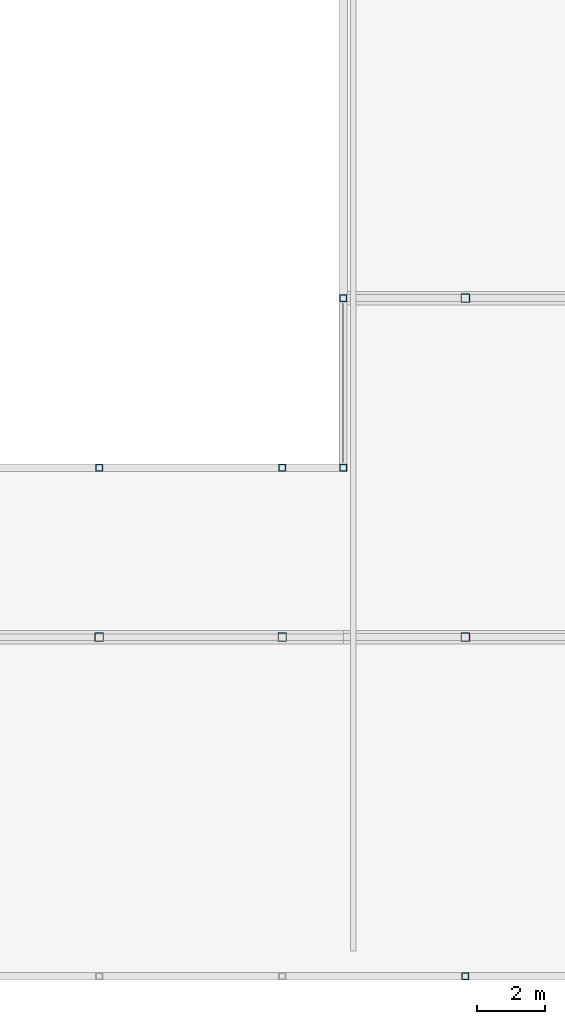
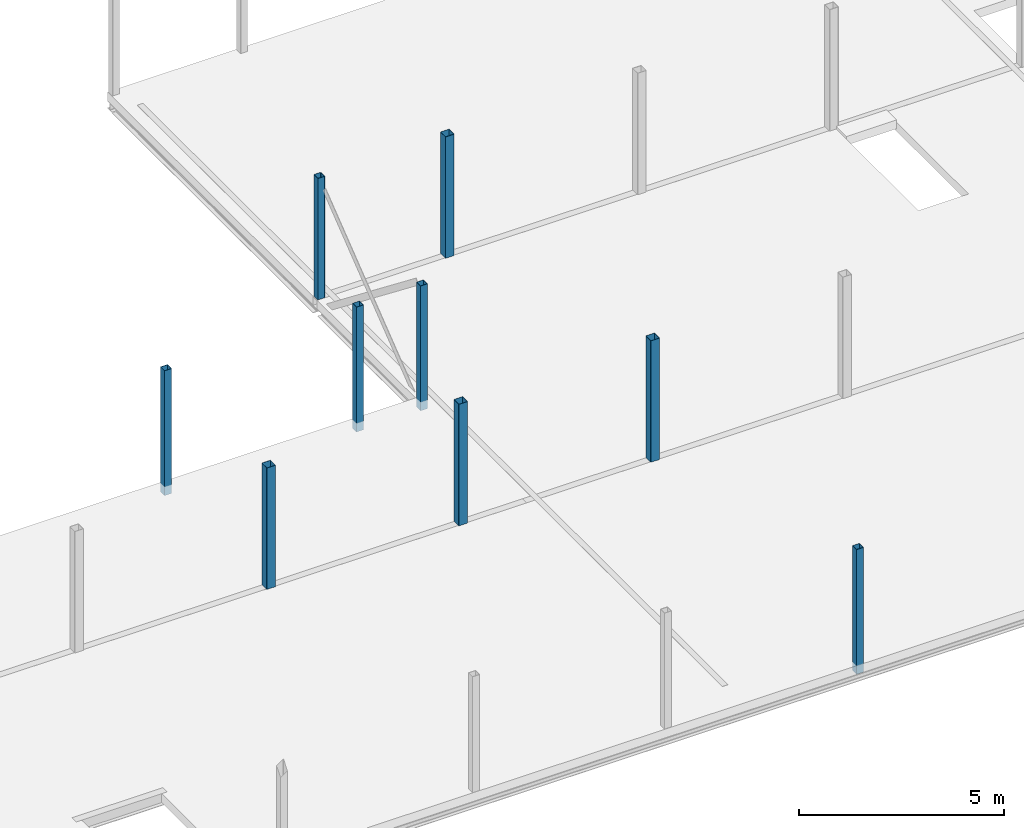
# One storey, part 2 of 7: 9 columns.
"""IFC2X3 building model written with IfcOpenShell, lengths in millimetres."""

from ifc_helpers import new_model, entity, si_unit, converted_unit, derived_unit, direction, frame, frame_2d, origin, place, context, subcontext, project, spatial, polyline, circle_curve, parameter, trimmed, segment, composite_curve, outline, extrude, source, transform, mapped, material, type_object, type_shapes, element, save


model = new_model("IFC2X3")

# Units and contexts
model_context = context("Model", 3, precision=0.01, world=origin(), true_north=direction((6.123031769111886e-17, 1.0)))
body_context = subcontext(model_context, "Body", "Model", "MODEL_VIEW")
ifc_project = project(units=[si_unit("LENGTHUNIT", "METRE", prefix="MILLI"), si_unit("AREAUNIT", "SQUARE_METRE"), si_unit("VOLUMEUNIT", "CUBIC_METRE"), converted_unit("PLANEANGLEUNIT", "DEGREE", entity("IfcPlaneAngleMeasure", 0.017453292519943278), si_unit("PLANEANGLEUNIT", "RADIAN"), dimensions=[0, 0, 0, 0, 0, 0, 0]), si_unit("MASSUNIT", "GRAM", prefix="KILO"), derived_unit("MASSDENSITYUNIT", [(si_unit("MASSUNIT", "GRAM", prefix="KILO"), 1), (si_unit("LENGTHUNIT", "METRE"), -3)]), derived_unit("IONCONCENTRATIONUNIT", [(si_unit("MASSUNIT", "GRAM", prefix="KILO"), 1), (si_unit("LENGTHUNIT", "METRE"), -3)]), derived_unit("MOMENTOFINERTIAUNIT", [(si_unit("LENGTHUNIT", "METRE"), 4)]), si_unit("TIMEUNIT", "SECOND"), si_unit("FREQUENCYUNIT", "HERTZ"), si_unit("THERMODYNAMICTEMPERATUREUNIT", "DEGREE_CELSIUS"), derived_unit("THERMALTRANSMITTANCEUNIT", [(si_unit("MASSUNIT", "GRAM", prefix="KILO"), 1), (si_unit("THERMODYNAMICTEMPERATUREUNIT", "KELVIN"), -1), (si_unit("TIMEUNIT", "SECOND"), -3)]), derived_unit("THERMALCONDUCTANCEUNIT", [(si_unit("MASSUNIT", "GRAM", prefix="KILO"), 1), (si_unit("THERMODYNAMICTEMPERATUREUNIT", "KELVIN"), -1), (si_unit("TIMEUNIT", "SECOND"), -3), (si_unit("LENGTHUNIT", "METRE"), 1)]), derived_unit("VOLUMETRICFLOWRATEUNIT", [(si_unit("LENGTHUNIT", "METRE", prefix="DECI"), 3), (si_unit("TIMEUNIT", "SECOND"), -1)]), derived_unit("MASSFLOWRATEUNIT", [(si_unit("MASSUNIT", "GRAM", prefix="KILO"), 1), (si_unit("TIMEUNIT", "SECOND"), -1)]), derived_unit("ROTATIONALFREQUENCYUNIT", [(si_unit("TIMEUNIT", "SECOND"), -1)]), si_unit("ELECTRICCURRENTUNIT", "AMPERE"), si_unit("ELECTRICVOLTAGEUNIT", "VOLT"), si_unit("POWERUNIT", "WATT"), si_unit("FORCEUNIT", "NEWTON", prefix="KILO"), si_unit("ILLUMINANCEUNIT", "LUX"), si_unit("LUMINOUSFLUXUNIT", "LUMEN"), si_unit("LUMINOUSINTENSITYUNIT", "CANDELA"), si_unit("ENERGYUNIT", "JOULE"), derived_unit("USERDEFINED", [(si_unit("MASSUNIT", "GRAM", prefix="KILO"), -1), (si_unit("LENGTHUNIT", "METRE"), -2), (si_unit("TIMEUNIT", "SECOND"), 3), (si_unit("LUMINOUSFLUXUNIT", "LUMEN"), 1)]), derived_unit("USERDEFINED", [(si_unit("MASSUNIT", "GRAM", prefix="KILO"), 1), (si_unit("TIMEUNIT", "SECOND"), -3), (si_unit("LENGTHUNIT", "METRE"), 3), (si_unit("ELECTRICCURRENTUNIT", "AMPERE"), -2)]), derived_unit("SOUNDPOWERUNIT", [(si_unit("MASSUNIT", "GRAM", prefix="KILO"), 1), (si_unit("TIMEUNIT", "SECOND"), -3), (si_unit("LENGTHUNIT", "METRE"), 2)]), derived_unit("SOUNDPRESSUREUNIT", [(si_unit("MASSUNIT", "GRAM", prefix="KILO"), 1), (si_unit("LENGTHUNIT", "METRE"), -1), (si_unit("TIMEUNIT", "SECOND"), -2)]), derived_unit("LINEARVELOCITYUNIT", [(si_unit("LENGTHUNIT", "METRE"), 1), (si_unit("TIMEUNIT", "SECOND"), -1)]), si_unit("PRESSUREUNIT", "PASCAL"), derived_unit("USERDEFINED", [(si_unit("MASSUNIT", "GRAM", prefix="KILO"), 1), (si_unit("LENGTHUNIT", "METRE"), -2), (si_unit("TIMEUNIT", "SECOND"), -2)]), derived_unit("LINEARFORCEUNIT", [(si_unit("MASSUNIT", "GRAM", prefix="KILO"), 1), (si_unit("TIMEUNIT", "SECOND"), -2)]), derived_unit("PLANARFORCEUNIT", [(si_unit("MASSUNIT", "GRAM", prefix="KILO"), 1), (si_unit("LENGTHUNIT", "METRE"), -1), (si_unit("TIMEUNIT", "SECOND"), -2)]), derived_unit("SPECIFICHEATCAPACITYUNIT", [(si_unit("THERMODYNAMICTEMPERATUREUNIT", "KELVIN"), -1), (si_unit("LENGTHUNIT", "METRE"), 2), (si_unit("TIMEUNIT", "SECOND"), -2)]), derived_unit("HEATFLUXDENSITYUNIT", [(si_unit("MASSUNIT", "GRAM", prefix="KILO"), 1), (si_unit("TIMEUNIT", "SECOND"), -3)]), derived_unit("HEATINGVALUEUNIT", [(si_unit("LENGTHUNIT", "METRE"), 2), (si_unit("TIMEUNIT", "SECOND"), -2)]), derived_unit("VAPORPERMEABILITYUNIT", [(si_unit("LENGTHUNIT", "METRE"), -1), (si_unit("TIMEUNIT", "SECOND"), 1)]), derived_unit("DYNAMICVISCOSITYUNIT", [(si_unit("MASSUNIT", "GRAM", prefix="KILO"), 1), (si_unit("TIMEUNIT", "SECOND"), -1), (si_unit("LENGTHUNIT", "METRE"), -1)]), derived_unit("THERMALEXPANSIONCOEFFICIENTUNIT", [(si_unit("THERMODYNAMICTEMPERATUREUNIT", "KELVIN"), -1)]), derived_unit("MODULUSOFELASTICITYUNIT", [(si_unit("MASSUNIT", "GRAM", prefix="KILO"), 1), (si_unit("LENGTHUNIT", "METRE"), -1), (si_unit("TIMEUNIT", "SECOND"), -2)]), derived_unit("ISOTHERMALMOISTURECAPACITYUNIT", [(si_unit("MASSUNIT", "GRAM", prefix="KILO"), -1), (si_unit("LENGTHUNIT", "METRE"), 3)]), derived_unit("MOISTUREDIFFUSIVITYUNIT", [(si_unit("TIMEUNIT", "SECOND"), -1), (si_unit("LENGTHUNIT", "METRE"), 2)]), derived_unit("MASSPERLENGTHUNIT", [(si_unit("MASSUNIT", "GRAM", prefix="KILO"), 1), (si_unit("LENGTHUNIT", "METRE"), -1)]), derived_unit("THERMALRESISTANCEUNIT", [(si_unit("MASSUNIT", "GRAM", prefix="KILO"), -1), (si_unit("TIMEUNIT", "SECOND"), 3), (si_unit("THERMODYNAMICTEMPERATUREUNIT", "KELVIN"), 1)]), derived_unit("ACCELERATIONUNIT", [(si_unit("LENGTHUNIT", "METRE"), 1), (si_unit("TIMEUNIT", "SECOND"), -2)]), derived_unit("ANGULARVELOCITYUNIT", [(si_unit("TIMEUNIT", "SECOND"), -1), (si_unit("PLANEANGLEUNIT", "RADIAN"), 1)]), derived_unit("LINEARSTIFFNESSUNIT", [(si_unit("MASSUNIT", "GRAM", prefix="KILO"), 1), (si_unit("TIMEUNIT", "SECOND"), -2)]), derived_unit("WARPINGCONSTANTUNIT", [(si_unit("LENGTHUNIT", "METRE"), 6)]), derived_unit("LINEARMOMENTUNIT", [(si_unit("MASSUNIT", "GRAM", prefix="KILO"), 1), (si_unit("LENGTHUNIT", "METRE"), 1), (si_unit("TIMEUNIT", "SECOND"), -2)]), derived_unit("TORQUEUNIT", [(si_unit("MASSUNIT", "GRAM", prefix="KILO"), 1), (si_unit("LENGTHUNIT", "METRE"), 2), (si_unit("TIMEUNIT", "SECOND"), -2)])], contexts=[model_context])

# Site, building, storey
site_placement = place(None, origin())
site = spatial("IfcSite", under=ifc_project, at=site_placement, Name="Default", CompositionType="ELEMENT")
building_placement = place(site_placement, origin())
building = spatial("IfcBuilding", under=site, at=building_placement, CompositionType="ELEMENT")
storey_placement = place(building_placement, frame((0.0, 0.0, 4000.0)))
storey = spatial("IfcBuildingStorey", under=building, at=storey_placement, Name="01 eerste verdieping", CompositionType="ELEMENT", Elevation=4000.0000000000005)

# Columns
ifc_material = material(Name="VRI_staal")
column_type_1 = type_object("IfcColumnType", Name="28_SC_VRI_kolom_staal_koker:K200x200x8", PredefinedType="COLUMN", material=ifc_material)
shared_shape_1 = source(origin(), body_context, "Body", "SweptSolid", [
    extrude(outline(composite_curve([segment(polyline([(-88.0, -100.0), (88.0, -100.0)]), True, "CONTINUOUS"), segment(trimmed(circle_curve(frame_2d((88.0, -88.0), x_axis=(0.0, -1.0)), 12.0), [parameter(359.9999999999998)], [parameter(89.99999999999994)], True, "PARAMETER"), True, "CONTINUOUS"), segment(polyline([(100.0, -88.0), (100.0, 88.0)]), True, "CONTINUOUS"), segment(trimmed(circle_curve(frame_2d((88.0, 88.0), x_axis=(0.0, -1.0)), 12.0), [parameter(90.00000000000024)], [parameter(180.0000000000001)], True, "PARAMETER"), True, "CONTINUOUS"), segment(polyline([(88.0, 100.0), (-88.0, 100.0)]), True, "CONTINUOUS"), segment(trimmed(circle_curve(frame_2d((-88.0, 88.0), x_axis=(0.0, -1.0)), 12.0), [parameter(179.99999999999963)], [parameter(269.9999999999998)], True, "PARAMETER"), True, "CONTINUOUS"), segment(polyline([(-100.0, 88.0), (-100.0, -88.0)]), True, "CONTINUOUS"), segment(trimmed(circle_curve(frame_2d((-88.0, -88.0), x_axis=(0.0, -1.0)), 12.0), [parameter(270.00000000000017)], [parameter(1.0177774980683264e-13)], True, "PARAMETER"), True, "CONTINUOUS")], self_intersect=False), holes=[composite_curve([segment(trimmed(circle_curve(frame_2d((-88.0, 88.0), x_axis=(0.0, -1.0)), 4.0), [parameter(180.0000000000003)], [parameter(270.0000000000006)], True, "PARAMETER"), False, "CONTINUOUS"), segment(polyline([(-88.0, 92.0), (88.0, 92.0)]), True, "CONTINUOUS"), segment(trimmed(circle_curve(frame_2d((88.0, 88.0), x_axis=(0.0, -1.0)), 4.0), [parameter(90.00000000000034)], [parameter(179.99999999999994)], True, "PARAMETER"), False, "CONTINUOUS"), segment(polyline([(92.0, 88.0), (92.0, -88.0)]), True, "CONTINUOUS"), segment(trimmed(circle_curve(frame_2d((88.0, -88.0), x_axis=(0.0, -1.0)), 4.0), [parameter(5.088887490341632e-13)], [parameter(90.00000000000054)], True, "PARAMETER"), False, "CONTINUOUS"), segment(polyline([(88.0, -92.0), (-88.0, -92.0)]), True, "CONTINUOUS"), segment(trimmed(circle_curve(frame_2d((-88.0, -88.0), x_axis=(0.0, -1.0)), 4.0), [parameter(269.9999999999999)], [parameter(0.0)], True, "PARAMETER"), False, "CONTINUOUS"), segment(polyline([(-92.0, -88.0), (-92.0, 88.0)]), True, "CONTINUOUS")], self_intersect=False)]), frame((-5.0, 0.0, 3655.0), z_axis=(0.0, 0.0, 1.0), x_axis=(0.0, 1.0, 0.0)), (0.0, 0.0, 1.0), 3709.9999999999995),
])
type_shapes(column_type_1, [shared_shape_1])
for number, where in (
    (1, (37005.0, 10000.0, -4000.0)),
    (2, (26205.0, 25000.0, -4000.0)),
    (3, (33405.0, 25000.0, -4000.0)),
    (4, (31605.0, 25000.0, -4000.0)),
):
    element("IfcColumn", number, at=place(storey_placement, frame(where)), inside=storey, type_object=column_type_1, material=ifc_material, Name="28_SC_VRI_kolom_staal_koker:K200x200x8", ObjectType="28_SC_VRI_kolom_staal_koker:K200x200x8", context=body_context, shape_type="MappedRepresentation", body=[
        mapped(shared_shape_1, transform((0.0, 0.0, 0.0), scale=1.0)),
    ])
column_type_2 = type_object("IfcColumnType", Name="28_SC_VRI_kolom_staal_koker:K250x250x8", PredefinedType="COLUMN", material=ifc_material)
shared_shape_2 = source(origin(), body_context, "Body", "SweptSolid", [
    extrude(outline(composite_curve([segment(polyline([(-113.0, -125.0), (113.0, -125.0)]), True, "CONTINUOUS"), segment(trimmed(circle_curve(frame_2d((113.0, -113.0), x_axis=(0.0, -1.0)), 12.0), [parameter(359.99999999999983)], [parameter(89.99999999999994)], True, "PARAMETER"), True, "CONTINUOUS"), segment(polyline([(125.0, -113.0), (125.0, 113.0)]), True, "CONTINUOUS"), segment(trimmed(circle_curve(frame_2d((113.0, 113.0), x_axis=(0.0, -1.0)), 12.0), [parameter(90.00000000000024)], [parameter(180.00000000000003)], True, "PARAMETER"), True, "CONTINUOUS"), segment(polyline([(113.0, 125.0), (-113.0, 125.0)]), True, "CONTINUOUS"), segment(trimmed(circle_curve(frame_2d((-113.0, 113.0), x_axis=(0.0, -1.0)), 12.0), [parameter(179.99999999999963)], [parameter(269.9999999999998)], True, "PARAMETER"), True, "CONTINUOUS"), segment(polyline([(-125.0, 113.0), (-125.0, -113.0)]), True, "CONTINUOUS"), segment(trimmed(circle_curve(frame_2d((-113.0, -113.0), x_axis=(0.0, -1.0)), 12.0), [parameter(270.00000000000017)], [parameter(1.0177774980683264e-13)], True, "PARAMETER"), True, "CONTINUOUS")], self_intersect=False), holes=[composite_curve([segment(trimmed(circle_curve(frame_2d((-113.0, 113.0), x_axis=(0.0, -1.0)), 4.0), [parameter(180.0000000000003)], [parameter(270.0000000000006)], True, "PARAMETER"), False, "CONTINUOUS"), segment(polyline([(-113.0, 117.0), (113.0, 117.0)]), True, "CONTINUOUS"), segment(trimmed(circle_curve(frame_2d((113.0, 113.0), x_axis=(0.0, -1.0)), 4.0), [parameter(90.00000000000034)], [parameter(179.9999999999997)], True, "PARAMETER"), False, "CONTINUOUS"), segment(polyline([(117.0, 113.0), (117.0, -113.0)]), True, "CONTINUOUS"), segment(trimmed(circle_curve(frame_2d((113.0, -113.0), x_axis=(0.0, -1.0)), 4.0), [parameter(5.088887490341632e-13)], [parameter(90.00000000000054)], True, "PARAMETER"), False, "CONTINUOUS"), segment(polyline([(113.0, -117.0), (-113.0, -117.0)]), True, "CONTINUOUS"), segment(trimmed(circle_curve(frame_2d((-113.0, -113.0), x_axis=(0.0, -1.0)), 4.0), [parameter(269.9999999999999)], [parameter(0.0)], True, "PARAMETER"), False, "CONTINUOUS"), segment(polyline([(-117.0, -113.0), (-117.0, 113.0)]), True, "CONTINUOUS")], self_intersect=False)]), frame((-5.0, 0.0, 3920.0), z_axis=(0.0, 0.0, 1.0), x_axis=(0.0, 1.0, 0.0)), (0.0, 0.0, 1.0), 3609.999999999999),
])
type_shapes(column_type_2, [shared_shape_2])
for number, where in (
    (5, (37005.0, 20000.0, -4000.0)),
    (6, (31605.0, 20000.0, -4000.0)),
    (7, (26205.0, 20000.0, -4000.0)),
    (8, (37005.0, 30000.0, -4000.0)),
):
    element("IfcColumn", number, at=place(storey_placement, frame(where)), inside=storey, type_object=column_type_2, material=ifc_material, Name="28_SC_VRI_kolom_staal_koker:K250x250x8", ObjectType="28_SC_VRI_kolom_staal_koker:K250x250x8", context=body_context, shape_type="MappedRepresentation", body=[
        mapped(shared_shape_2, transform((0.0, 0.0, 0.0), scale=1.0)),
    ])
column_type_3 = type_object("IfcColumnType", Name="28_SC_VRI_kolom_staal_koker:K200x200x8", PredefinedType="COLUMN", material=ifc_material)
shared_shape_3 = source(origin(), body_context, "Body", "SweptSolid", [
    extrude(outline(composite_curve([segment(polyline([(-88.0, -100.0), (88.0, -100.0)]), True, "CONTINUOUS"), segment(trimmed(circle_curve(frame_2d((88.0, -88.0), x_axis=(0.0, -1.0)), 12.0), [parameter(359.9999999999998)], [parameter(89.99999999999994)], True, "PARAMETER"), True, "CONTINUOUS"), segment(polyline([(100.0, -88.0), (100.0, 88.0)]), True, "CONTINUOUS"), segment(trimmed(circle_curve(frame_2d((88.0, 88.0), x_axis=(0.0, -1.0)), 12.0), [parameter(90.00000000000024)], [parameter(180.0000000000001)], True, "PARAMETER"), True, "CONTINUOUS"), segment(polyline([(88.0, 100.0), (-88.0, 100.0)]), True, "CONTINUOUS"), segment(trimmed(circle_curve(frame_2d((-88.0, 88.0), x_axis=(0.0, -1.0)), 12.0), [parameter(179.99999999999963)], [parameter(269.9999999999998)], True, "PARAMETER"), True, "CONTINUOUS"), segment(polyline([(-100.0, 88.0), (-100.0, -88.0)]), True, "CONTINUOUS"), segment(trimmed(circle_curve(frame_2d((-88.0, -88.0), x_axis=(0.0, -1.0)), 12.0), [parameter(270.00000000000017)], [parameter(1.0177774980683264e-13)], True, "PARAMETER"), True, "CONTINUOUS")], self_intersect=False), holes=[composite_curve([segment(trimmed(circle_curve(frame_2d((-88.0, 88.0), x_axis=(0.0, -1.0)), 4.0), [parameter(180.0000000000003)], [parameter(270.0000000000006)], True, "PARAMETER"), False, "CONTINUOUS"), segment(polyline([(-88.0, 92.0), (88.0, 92.0)]), True, "CONTINUOUS"), segment(trimmed(circle_curve(frame_2d((88.0, 88.0), x_axis=(0.0, -1.0)), 4.0), [parameter(90.00000000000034)], [parameter(179.99999999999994)], True, "PARAMETER"), False, "CONTINUOUS"), segment(polyline([(92.0, 88.0), (92.0, -88.0)]), True, "CONTINUOUS"), segment(trimmed(circle_curve(frame_2d((88.0, -88.0), x_axis=(0.0, -1.0)), 4.0), [parameter(5.088887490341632e-13)], [parameter(90.00000000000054)], True, "PARAMETER"), False, "CONTINUOUS"), segment(polyline([(88.0, -92.0), (-88.0, -92.0)]), True, "CONTINUOUS"), segment(trimmed(circle_curve(frame_2d((-88.0, -88.0), x_axis=(0.0, -1.0)), 4.0), [parameter(269.9999999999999)], [parameter(0.0)], True, "PARAMETER"), False, "CONTINUOUS"), segment(polyline([(-92.0, -88.0), (-92.0, 88.0)]), True, "CONTINUOUS")], self_intersect=False)]), frame((-5.0, 0.0, 3920.0), z_axis=(0.0, 0.0, 1.0), x_axis=(0.0, 1.0, 0.0)), (0.0, 0.0, 1.0), 3609.999999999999),
])
type_shapes(column_type_3, [shared_shape_3])
column_placement = place(storey_placement, frame((33405.0, 30000.0, -4000.0)))
element("IfcColumn", 9, at=column_placement, inside=storey, type_object=column_type_3, material=ifc_material, Name="28_SC_VRI_kolom_staal_koker:K200x200x8", ObjectType="28_SC_VRI_kolom_staal_koker:K200x200x8", context=body_context, shape_type="MappedRepresentation", body=[
    mapped(shared_shape_3, transform((0.0, 0.0, 0.0), scale=1.0)),
])

save(model, "model.ifc")
